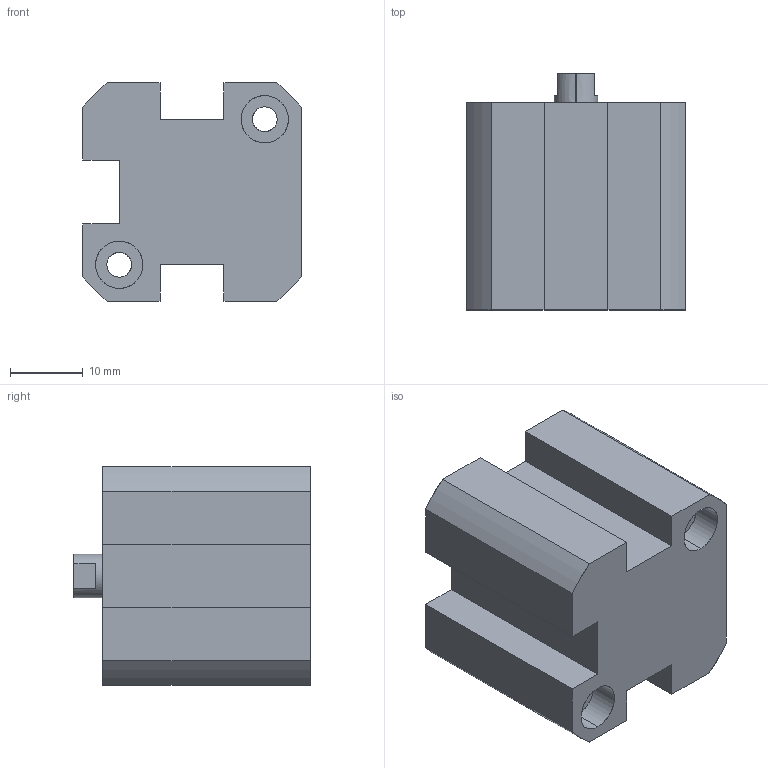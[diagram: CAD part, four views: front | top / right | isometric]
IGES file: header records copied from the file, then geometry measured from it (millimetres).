
Start section: SolidWorks IGES file using analytic representation for surfaces
Global section: file name: C:\Users\Toshiba\Desktop\XC#1-16-10.IGS; native system: SolidWorks 2014; preprocessor: SolidWorks 2014; author: Toshiba; date: 160523.153318; units: millimetre
Bounding box: 30 x 32.5 x 30 mm (x, y, z)
Surface area: 6754.7 mm2 (no closed solid volume)
Topology: 0 solids, 0 shells, 73 faces, 1123 edges, 1119 vertices
Faces by surface type: revolution 41, bspline 32
